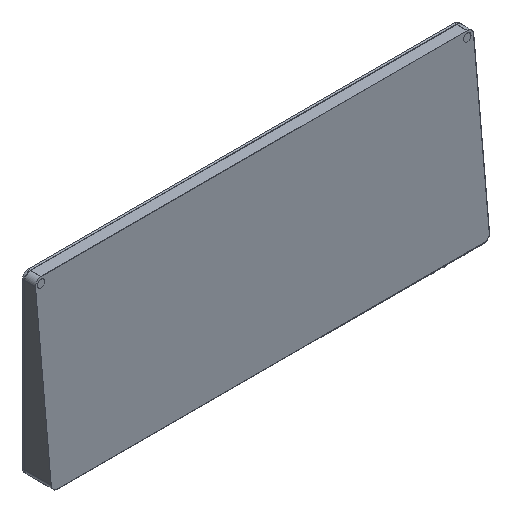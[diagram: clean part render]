
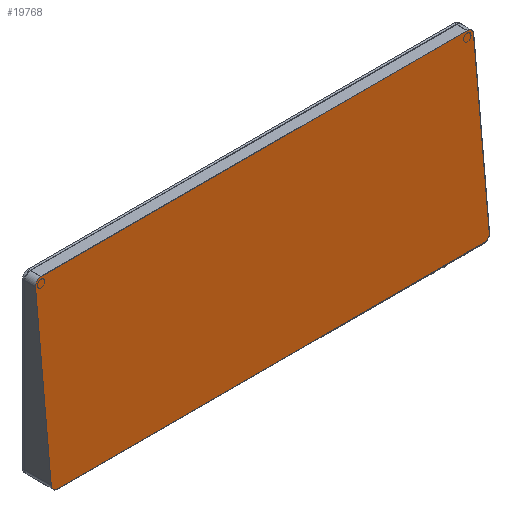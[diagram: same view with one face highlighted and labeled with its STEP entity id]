
A CAD part, isometric view. The second image highlights one B-rep face of the part: STEP entity #19768.
In plain terms, the highlighted planar face has unit normal (0, -0.995, 0.096).
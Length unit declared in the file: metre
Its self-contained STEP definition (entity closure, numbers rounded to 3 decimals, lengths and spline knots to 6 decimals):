
#22=ELLIPSE('',#25450,0.005023,0.005);
#23=ELLIPSE('',#25451,0.005023,0.005);
#24=ELLIPSE('',#25452,0.005023,0.005);
#25=ELLIPSE('',#25453,0.005023,0.005);
#1086=LINE('',#32104,#3529);
#1177=LINE('',#32287,#3620);
#1178=LINE('',#32292,#3621);
#1179=LINE('',#32297,#3622);
#3529=VECTOR('',#26907,1.);
#3620=VECTOR('',#27010,1.);
#3621=VECTOR('',#27013,1.);
#3622=VECTOR('',#27018,1.);
#5943=PLANE('',#25449);
#7036=ORIENTED_EDGE('',*,*,#12478,.T.);
#7037=ORIENTED_EDGE('',*,*,#12479,.T.);
#7038=ORIENTED_EDGE('',*,*,#12480,.T.);
#7039=ORIENTED_EDGE('',*,*,#12481,.T.);
#7040=ORIENTED_EDGE('',*,*,#12386,.F.);
#7041=ORIENTED_EDGE('',*,*,#12482,.T.);
#7042=ORIENTED_EDGE('',*,*,#12483,.F.);
#7043=ORIENTED_EDGE('',*,*,#12484,.T.);
#12386=EDGE_CURVE('',#15117,#15118,#1086,.T.);
#12478=EDGE_CURVE('',#15204,#15205,#1177,.T.);
#12479=EDGE_CURVE('',#15205,#15206,#22,.F.);
#12480=EDGE_CURVE('',#15206,#15207,#1178,.T.);
#12481=EDGE_CURVE('',#15207,#15118,#23,.F.);
#12482=EDGE_CURVE('',#15117,#15208,#24,.F.);
#12483=EDGE_CURVE('',#15209,#15208,#1179,.T.);
#12484=EDGE_CURVE('',#15209,#15204,#25,.F.);
#15117=VERTEX_POINT('',#32103);
#15118=VERTEX_POINT('',#32105);
#15204=VERTEX_POINT('',#32288);
#15205=VERTEX_POINT('',#32289);
#15206=VERTEX_POINT('',#32291);
#15207=VERTEX_POINT('',#32293);
#15208=VERTEX_POINT('',#32296);
#15209=VERTEX_POINT('',#32298);
#16964=EDGE_LOOP('',(#7036,#7037,#7038,#7039,#7040,#7041,#7042,#7043));
#18315=FACE_BOUND('',#16964,.T.);
#19768=ADVANCED_FACE('',(#18315),#5943,.F.);
#25449=AXIS2_PLACEMENT_3D('',#32286,#27008,#27009);
#25450=AXIS2_PLACEMENT_3D('',#32290,#27011,#27012);
#25451=AXIS2_PLACEMENT_3D('',#32294,#27014,#27015);
#25452=AXIS2_PLACEMENT_3D('',#32295,#27016,#27017);
#25453=AXIS2_PLACEMENT_3D('',#32299,#27019,#27020);
#26907=DIRECTION('',(-1.,0.,0.));
#27008=DIRECTION('',(0.,0.995,-0.095));
#27009=DIRECTION('',(0.,0.095,0.995));
#27010=DIRECTION('',(-1.,0.,0.));
#27011=DIRECTION('',(0.,0.995,-0.095));
#27012=DIRECTION('',(0.,-0.095,-0.995));
#27013=DIRECTION('',(0.,-0.095,-0.995));
#27014=DIRECTION('',(0.,0.995,-0.095));
#27015=DIRECTION('',(0.,0.095,0.995));
#27016=DIRECTION('',(0.,0.995,-0.095));
#27017=DIRECTION('',(0.,-0.095,-0.995));
#27018=DIRECTION('',(0.,-0.095,-0.995));
#27019=DIRECTION('',(0.,0.995,-0.095));
#27020=DIRECTION('',(0.,0.095,0.995));
#32103=CARTESIAN_POINT('',(0.177,-0.014121,-0.073));
#32104=CARTESIAN_POINT('',(0.182,-0.014121,-0.073));
#32105=CARTESIAN_POINT('',(-0.177,-0.014121,-0.073));
#32286=CARTESIAN_POINT('',(0.182,-0.007121,0.));
#32287=CARTESIAN_POINT('',(0.182,-0.000121,0.073));
#32288=CARTESIAN_POINT('',(0.177,-0.000121,0.073));
#32289=CARTESIAN_POINT('',(-0.177,-0.000121,0.073));
#32290=CARTESIAN_POINT('',(-0.177,-0.000601,0.068));
#32291=CARTESIAN_POINT('',(-0.182,-0.000601,0.068));
#32292=CARTESIAN_POINT('',(-0.182,-0.007121,0.));
#32293=CARTESIAN_POINT('',(-0.182,-0.013642,-0.068));
#32294=CARTESIAN_POINT('',(-0.177,-0.013642,-0.068));
#32295=CARTESIAN_POINT('',(0.177,-0.013642,-0.068));
#32296=CARTESIAN_POINT('',(0.182,-0.013642,-0.068));
#32297=CARTESIAN_POINT('',(0.182,-0.007121,0.));
#32298=CARTESIAN_POINT('',(0.182,-0.000601,0.068));
#32299=CARTESIAN_POINT('',(0.177,-0.000601,0.068));
